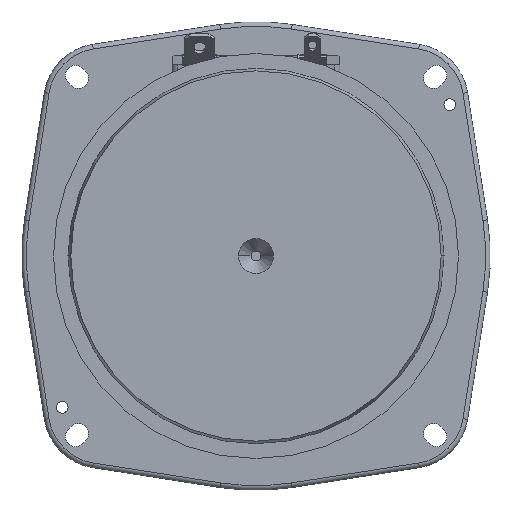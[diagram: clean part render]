
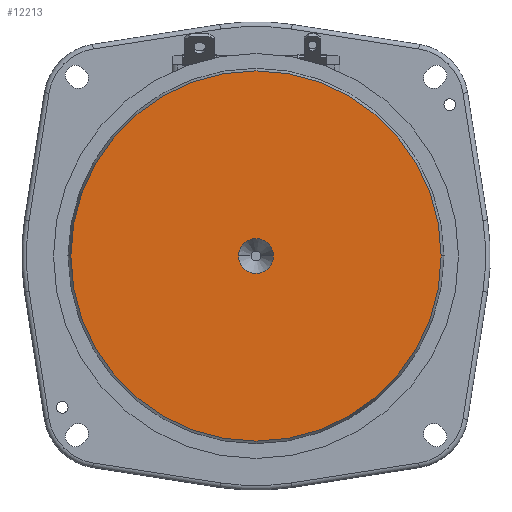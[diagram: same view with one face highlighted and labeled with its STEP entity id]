
A CAD part, front view. The second image highlights one B-rep face of the part: STEP entity #12213.
In plain terms, the highlighted planar face has unit normal (0, -1, 0).
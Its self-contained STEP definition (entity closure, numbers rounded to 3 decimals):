
#11899=CARTESIAN_POINT('',(0.,0.,0.));
#11900=DIRECTION('',(0.,-1.,0.));
#11901=DIRECTION('',(1.,0.,0.));
#11902=AXIS2_PLACEMENT_3D('',#11899,#11900,#11901);
#11907=CARTESIAN_POINT('',(0.,0.,0.));
#11908=DIRECTION('',(0.,1.,0.));
#11909=DIRECTION('',(1.,0.,0.));
#11910=AXIS2_PLACEMENT_3D('',#11907,#11908,#11909);
#11931=CARTESIAN_POINT('',(0.,0.,0.));
#11932=DIRECTION('',(0.,1.,0.));
#11933=DIRECTION('',(1.,0.,0.));
#11934=AXIS2_PLACEMENT_3D('',#11931,#11932,#11933);
#11939=CARTESIAN_POINT('',(0.,0.,0.));
#11940=DIRECTION('',(0.,-1.,0.));
#11941=DIRECTION('',(1.,0.,0.));
#11942=AXIS2_PLACEMENT_3D('',#11939,#11940,#11941);
#12102=CARTESIAN_POINT('',(3.,0.,0.));
#12104=VERTEX_POINT('',#12102);
#12105=CARTESIAN_POINT('',(32.,0.,0.));
#12107=VERTEX_POINT('',#12105);
#12116=CARTESIAN_POINT('',(-3.,0.,0.));
#12118=VERTEX_POINT('',#12116);
#12119=CARTESIAN_POINT('',(-32.,0.,0.));
#12121=VERTEX_POINT('',#12119);
#12198=CARTESIAN_POINT('',(0.,0.,0.));
#12199=DIRECTION('',(0.,-1.,0.));
#12200=DIRECTION('',(-1.,0.,0.));
#12201=AXIS2_PLACEMENT_3D('',#12198,#12199,#12200);
#12202=PLANE('',#12201);
#12204=ORIENTED_EDGE('',*,*,#12203,.T.);
#12206=ORIENTED_EDGE('',*,*,#12205,.F.);
#12207=EDGE_LOOP('',(#12204,#12206));
#12208=FACE_OUTER_BOUND('',#12207,.F.);
#12209=ORIENTED_EDGE('',*,*,#12186,.T.);
#12210=ORIENTED_EDGE('',*,*,#12163,.F.);
#12211=EDGE_LOOP('',(#12209,#12210));
#12212=FACE_BOUND('',#12211,.F.);
#12213=ADVANCED_FACE('',(#12208,#12212),#12202,.T.);
#11903=CIRCLE('',#11902,3.);
#11911=CIRCLE('',#11910,3.);
#11935=CIRCLE('',#11934,32.);
#11943=CIRCLE('',#11942,32.);
#12163=EDGE_CURVE('',#12104,#12118,#11911,.T.);
#12186=EDGE_CURVE('',#12104,#12118,#11903,.T.);
#12203=EDGE_CURVE('',#12107,#12121,#11935,.T.);
#12205=EDGE_CURVE('',#12107,#12121,#11943,.T.);
